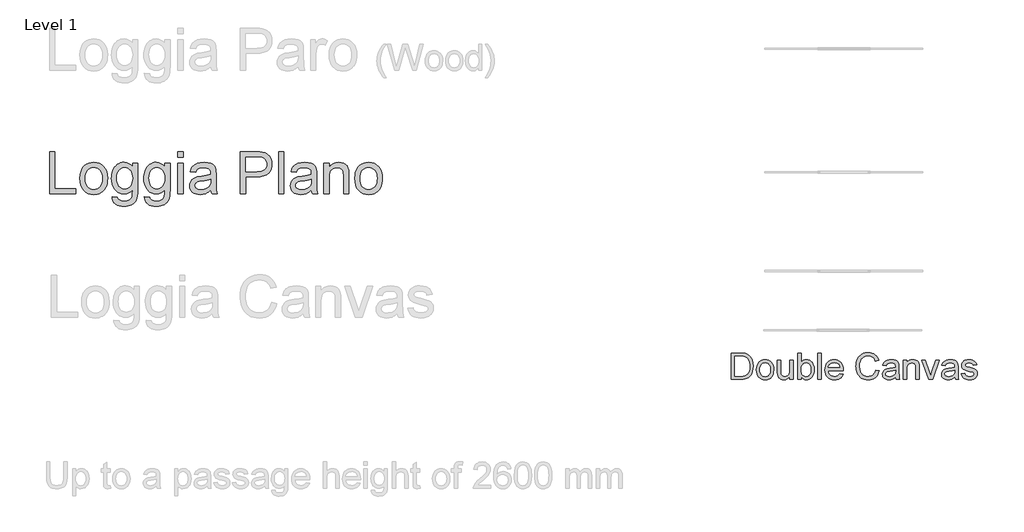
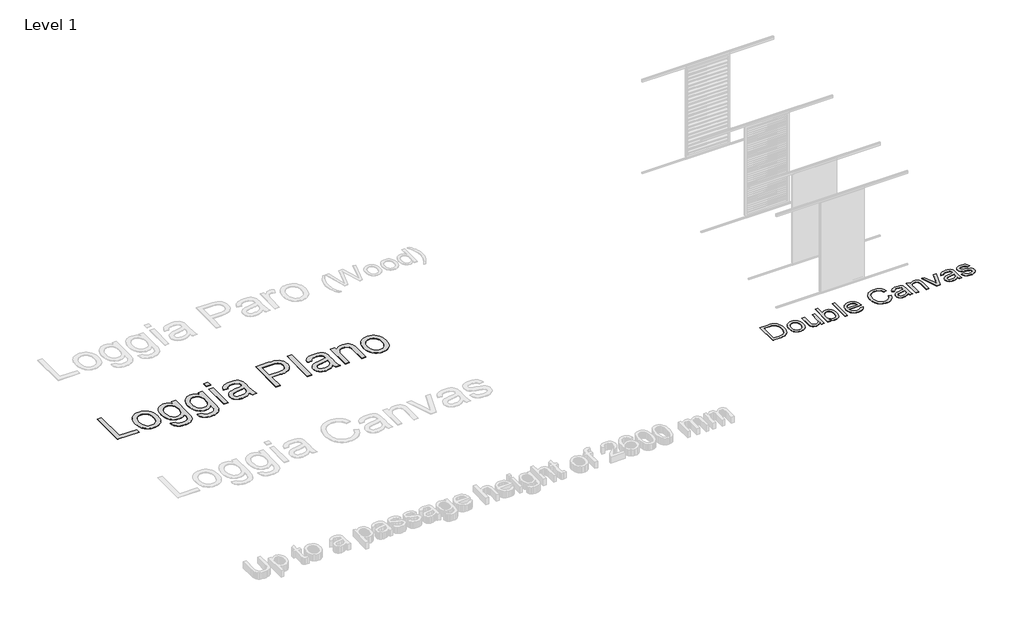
# One storey, part 14 of 47: 2 proxies.
"""IFC4 building model written with IfcOpenShell, lengths in millimetres."""

from ifc_helpers import new_model, si_unit, origin, origin_with_axes, place, context, project, spatial, polyline, outline, extrude, element, save

model = new_model("IFC4")

# Units and contexts
model_context = context("Model", 3, world=origin())
ifc_project = project(units=[si_unit("LENGTHUNIT", "METRE", prefix="MILLI")], contexts=[model_context])

# Site, building, storey
site = spatial("IfcSite", under=ifc_project)
building = spatial("IfcBuilding", under=site)
storey = spatial("IfcBuildingStorey", under=building, Name="Level 1", Elevation=0.0)

# Proxies
placement = place(None, origin())
element("IfcBuildingElementProxy", 1, Name="500mm Arial", ObjectType="500mm Arial", at=placement, inside=storey, context=model_context, shape_type="SweptSolid", body=[
    extrude(outline(polyline([(185878.979046, -25989.2078422), (185878.979046, -25486.9262915), (186052.2514658, -25486.9262915), (186104.0308566, -25488.7350446), (186141.8920453, -25494.1613041), (186181.9298691, -25508.110163), (186215.713699, -25530.0911123), (186234.3300608, -25548.0560164), (186250.4478907, -25568.3508398), (186264.0671887, -25590.9755825), (186275.1879549, -25615.9302445), (186289.9952052, -25671.9096214), (186294.9309553, -25735.3692656), (186291.5893605, -25789.2793063), (186281.5645761, -25836.7207552), (186266.2974733, -25877.1111326), (186247.2289232, -25909.8679586), (186225.2786308, -25935.7269972), (186201.3663012, -25955.4240123), (186173.9131073, -25970.0319932), (186141.3402223, -25980.623929), (186103.5863325, -25987.0618639), (186060.5901243, -25989.2078422), (185878.979046, -25989.2078422)]), holes=[polyline([(185941.7642399, -25926.4226484), (186052.8646024, -25926.4226484), (186098.819195, -25924.1540428), (186133.676014, -25917.3482258), (186159.9795767, -25906.4037365), (186180.2744001, -25891.7191135), (186202.0867367, -25864.5418311), (186218.4728139, -25829.3631153), (186228.7275245, -25786.029682), (186232.1457614, -25734.3882469), (186230.4711319, -25697.9372726), (186225.4472434, -25665.9621958), (186217.0740959, -25638.4630167), (186205.3516894, -25615.4397351), (186191.2303858, -25596.3711851), (186175.6605467, -25580.7362003), (186158.6421724, -25568.5347808), (186140.1752626, -25559.7669265), (186104.0615134, -25552.2253456), (186051.1478198, -25549.7114853), (185941.7642399, -25549.7114853), (185941.7642399, -25926.4226484)])]), origin_with_axes(), (0.0, 0.0, 1.0), 5.0),
    extrude(outline(polyline([(186357.7161491, -25804.7763353), (186361.1113933, -25757.0053254), (186371.2971261, -25715.840863), (186388.2733473, -25681.2829481), (186412.0400571, -25653.3315806), (186435.9677152, -25635.4663113), (186462.3785767, -25622.7054045), (186491.2726418, -25615.0488605), (186522.6499103, -25612.4966792), (186557.2882994, -25615.6045156), (186588.6080863, -25624.9280249), (186616.6092711, -25640.4672071), (186641.2918537, -25662.2220622), (186661.4372251, -25689.4568261), (186675.826776, -25721.435735), (186684.4605066, -25758.1587887), (186687.3384168, -25799.6259874), (186682.2493825, -25863.0549747), (186675.8880897, -25889.0902901), (186666.9822797, -25911.3394866), (186655.6430836, -25930.5574887), (186641.9816325, -25947.499221), (186625.9979262, -25962.1646835), (186607.6919648, -25974.5538761), (186566.9643623, -25991.4304626), (186522.6499103, -25997.0559915), (186487.5056834, -25993.9596513), (186455.8946566, -25984.670631), (186427.8168297, -25969.1889303), (186403.2722028, -25947.5145495), (186383.3414293, -25920.0153703), (186369.1051625, -25887.0592749), (186360.5634025, -25848.6462632), (186357.7161491, -25804.7763353)]), holes=[polyline([(186420.5013429, -25804.653708), (186422.3177603, -25835.1074394), (186427.7670123, -25861.4761478), (186436.8490991, -25883.7598333), (186449.5640206, -25901.9584957), (186465.0303928, -25916.0951278), (186482.3668318, -25926.1927221), (186501.5733376, -25932.2512788), (186522.6499103, -25934.2707976), (186543.619184, -25932.2397824), (186562.7490477, -25926.1467369), (186580.0395015, -25915.991661), (186595.4905453, -25901.7745547), (186608.2054668, -25883.3957834), (186617.2875535, -25860.7557123), (186622.7368056, -25833.8543414), (186624.5532229, -25802.6916707), (186622.7253093, -25773.2036295), (186617.2415683, -25747.5246998), (186608.102, -25725.6548816), (186595.3066043, -25707.5941749), (186579.798079, -25693.4575428), (186562.5191215, -25683.3599485), (186543.4697319, -25677.3013919), (186522.6499103, -25675.281873), (186501.5733376, -25677.2937277), (186482.3668318, -25683.3292917), (186465.0303928, -25693.388565), (186449.5640206, -25707.4715476), (186436.8490991, -25725.6165606), (186427.7670123, -25747.861925), (186422.3177603, -25774.2076408), (186420.5013429, -25804.653708)])]), origin_with_axes(), (0.0, 0.0, 1.0), 5.0),
    extrude(outline(polyline([(186993.4162368, -25989.2078422), (186993.4162368, -25925.8095117), (186970.6995236, -25956.9798466), (186944.2426767, -25979.2443715), (186914.0456963, -25992.6030865), (186880.1085823, -25997.0559915), (186849.5283914, -25993.9289945), (186821.063522, -25984.5480036), (186797.1818492, -25970.4458605), (186780.3512479, -25953.1554067), (186769.0235481, -25932.1554762), (186761.6505798, -25906.9249026), (186757.9717599, -25848.5542927), (186757.9717599, -25620.3448284), (186820.7569537, -25620.3448284), (186820.7569537, -25819.0011058), (186824.558401, -25883.012573), (186833.7094656, -25904.3650571), (186849.3904357, -25920.5978501), (186870.5589788, -25930.8525608), (186896.1727627, -25934.2707976), (186923.2580746, -25930.7759187), (186948.595947, -25920.2912818), (186969.4885787, -25903.7825773), (186983.2381682, -25882.2154953), (186990.8717196, -25852.6776368), (186993.4162368, -25812.2566026), (186993.4162368, -25620.3448284), (187056.2014306, -25620.3448284), (187056.2014306, -25989.2078422), (186993.4162368, -25989.2078422)])), origin_with_axes(), (0.0, 0.0, 1.0), 5.0),
    extrude(outline(polyline([(187205.316266, -25989.2078422), (187142.5310721, -25989.2078422), (187142.5310721, -25486.9262915), (187205.316266, -25486.9262915), (187205.316266, -25673.1972084), (187225.963643, -25646.6407269), (187249.2781644, -25627.6718115), (187275.2598303, -25616.2904623), (187303.9086407, -25612.4966792), (187336.2515994, -25615.914916), (187366.8164619, -25626.1696267), (187393.8557885, -25642.6170175), (187415.6221399, -25664.6132952), (187432.6826674, -25691.9438617), (187445.6045225, -25724.3941194), (187453.7439116, -25760.6151675), (187456.4570414, -25799.2581054), (187453.648109, -25843.8484689), (187445.2213121, -25883.0738866), (187431.1766505, -25916.9343586), (187411.5141243, -25945.4298848), (187387.912195, -25968.0163065), (187362.0493244, -25984.1494648), (187333.9255122, -25993.8293598), (187303.5407587, -25997.0559915), (187273.9492507, -25992.8943264), (187247.7146659, -25980.4093312), (187224.8370044, -25959.6010058), (187205.316266, -25930.4693503), (187205.316266, -25989.2078422)]), holes=[polyline([(187205.316266, -25802.2011614), (187209.6082226, -25854.563032), (187214.9731684, -25874.3980029), (187222.4840924, -25890.0023309), (187237.6975458, -25909.3697851), (187255.3788742, -25923.2036809), (187275.5280776, -25931.5040185), (187298.1451561, -25934.2707976), (187316.9224663, -25932.2321182), (187334.3815326, -25926.1160801), (187350.5223552, -25915.9226831), (187365.3449339, -25901.6519274), (187377.7379586, -25883.3421339), (187386.5901191, -25861.0316238), (187391.9014154, -25834.7203969), (187393.6718475, -25804.4084533), (187391.9742254, -25773.5216941), (187386.881359, -25746.9575484), (187378.3932484, -25724.7160161), (187366.5098935, -25706.7970973), (187352.2199773, -25693.0091867), (187336.5121825, -25683.1606791), (187319.3865092, -25677.2515745), (187300.8429574, -25675.281873), (187282.0656472, -25677.3205524), (187264.6065809, -25683.4365906), (187248.4657583, -25693.6299875), (187233.6431796, -25707.9007433), (187221.2501549, -25726.0265957), (187212.3979944, -25747.7852829), (187207.0866981, -25773.1768048), (187205.316266, -25802.2011614)])]), origin_with_axes(), (0.0, 0.0, 1.0), 5.0),
    extrude(outline(polyline([(187527.0903844, -25989.2078422), (187527.0903844, -25486.9262915), (187589.8755783, -25486.9262915), (187589.8755783, -25989.2078422), (187527.0903844, -25989.2078422)])), origin_with_axes(), (0.0, 0.0, 1.0), 5.0),
    extrude(outline(polyline([(187942.3065297, -25879.333753), (188003.8654502, -25887.1819022), (187994.4269777, -25911.8376601), (187981.6852316, -25933.5656905), (187965.6402116, -25952.3659933), (187946.2919179, -25968.2385685), (187923.8396199, -25980.8461911), (187898.482587, -25989.8516357), (187870.2208191, -25995.2549025), (187839.0543163, -25997.0559915), (187800.0971459, -25993.948155), (187765.3859468, -25984.6246457), (187734.9207191, -25969.0854635), (187708.7014627, -25947.3306085), (187687.6172259, -25919.965553), (187672.5570567, -25887.5957695), (187663.5209552, -25850.221258), (187660.5089214, -25807.8420186), (187663.551612, -25764.0257401), (187672.679684, -25725.4057949), (187687.8931374, -25691.9821828), (187709.191972, -25663.7549038), (187735.3422505, -25641.3294305), (187765.1100353, -25625.3112353), (187798.4953264, -25615.7003182), (187835.4981237, -25612.4966792), (187871.3091367, -25615.692654), (187903.6942486, -25625.2805785), (187932.6534594, -25641.2604527), (187958.1867691, -25663.6322765), (187979.0295834, -25691.7982418), (187993.9173079, -25725.1605402), (188002.8499426, -25763.7191718), (188005.8274875, -25807.4741366), (188005.4596055, -25824.3967084), (187723.2941152, -25824.3967084), (187726.930782, -25849.4510051), (187734.1619625, -25871.3936333), (187744.9876566, -25890.2245929), (187759.4078644, -25905.943884), (187776.6255082, -25918.3369087), (187795.8435103, -25927.1890692), (187817.0618708, -25932.5003655), (187840.2805897, -25934.2707976), (187873.6965376, -25930.9905165), (187901.8395102, -25921.1496731), (187924.7095076, -25904.1351309), (187942.3065297, -25879.333753)]), holes=[polyline([(187723.2941152, -25761.6115146), (187943.0422937, -25761.6115146), (187934.5503509, -25728.4408213), (187917.9036906, -25704.7124326), (187900.7818495, -25691.8365628), (187881.2994321, -25682.6395129), (187859.4564387, -25677.121283), (187835.2528691, -25675.281873), (187792.9311112, -25681.1526565), (187774.5178509, -25688.4911359), (187757.9363364, -25698.765007), (187744.0219664, -25711.499089), (187733.6101395, -25726.2182009), (187726.7008558, -25742.9223428), (187723.2941152, -25761.6115146)])]), origin_with_axes(), (0.0, 0.0, 1.0), 5.0),
    extrude(outline(polyline([(188625.8312767, -25810.6624472), (188688.6164705, -25826.849255), (188676.192789, -25865.8945639), (188659.6457634, -25900.0117868), (188638.9753938, -25929.2009239), (188614.1816802, -25953.461975), (188585.8241097, -25972.5343572), (188554.4621696, -25986.1574874), (188520.0958599, -25994.3313654), (188482.7251806, -25997.0559915), (188444.4386283, -25994.9943195), (188409.8998739, -25988.8093034), (188379.1089174, -25978.5009433), (188352.0657586, -25964.0692392), (188328.3986836, -25945.7287889), (188307.7359782, -25923.6941903), (188290.0776424, -25897.9654432), (188275.4236763, -25868.5425478), (188263.9158676, -25836.6977626), (188255.6960043, -25803.7033462), (188250.7640863, -25769.5592985), (188249.1201136, -25734.2656196), (188250.9786841, -25696.3967667), (188256.5543956, -25661.0264457), (188265.8472481, -25628.1546566), (188278.8572416, -25597.7813994), (188295.2931361, -25570.4086797), (188314.8636919, -25546.5385031), (188337.5689087, -25526.1708697), (188363.4087868, -25509.3057795), (188391.5057742, -25496.0811882), (188420.9823191, -25486.6350516), (188451.8384214, -25480.9673696), (188484.0740812, -25479.0781423), (188519.9847289, -25481.5230247), (188552.9139996, -25488.857672), (188582.8618932, -25501.0820841), (188609.8284099, -25518.1962611), (188633.3690255, -25539.7480146), (188653.0392159, -25565.2851565), (188668.8389812, -25594.8076866), (188680.7683213, -25628.315605), (188617.9831275, -25643.2761394), (188608.0962988, -25618.5858926), (188596.2167761, -25597.4901595), (188582.3445592, -25579.98894), (188566.4796481, -25566.0822341), (188548.5300725, -25555.4864662), (188528.4038616, -25547.9180606), (188506.1010157, -25543.3770172), (188481.6215346, -25541.8633361), (188453.4555693, -25543.5417977), (188427.6961655, -25548.5771825), (188404.343323, -25556.9694905), (188383.3970419, -25568.7187218), (188365.1217373, -25583.2960458), (188349.7818246, -25600.1726323), (188337.3773035, -25619.3484813), (188327.9081743, -25640.8235928), (188315.9060242, -25686.7781854), (188311.9053075, -25734.1429922), (188316.6417882, -25792.1457202), (188330.8512302, -25842.3002988), (188341.6424354, -25863.9555192), (188355.0701282, -25882.6906762), (188371.1343087, -25898.5057699), (188389.8349768, -25911.4008003), (188431.5129412, -25928.5532983), (188476.4711867, -25934.2707976), (188503.7672643, -25932.3240887), (188528.8790426, -25926.4839621), (188551.8065215, -25916.7504176), (188572.5497011, -25903.1234554), (188590.618072, -25885.664389), (188605.5211249, -25864.4345322), (188617.2588598, -25839.433885), (188625.8312767, -25810.6624472)])), origin_with_axes(), (0.0, 0.0, 1.0), 5.0),
    extrude(outline(polyline([(189002.5424398, -25942.1189469), (188972.5447287, -25967.8400297), (188941.6579696, -25984.670631), (188909.1770551, -25993.9596513), (188874.3968781, -25997.0559915), (188846.4416786, -25995.1935889), (188821.9277085, -25989.6063811), (188800.854968, -25980.2943681), (188783.223457, -25967.2575499), (188769.3014227, -25951.3236609), (188759.3571125, -25933.3204358), (188753.3905264, -25913.2478744), (188751.4016644, -25891.1059769), (188754.406034, -25865.0783257), (188763.4191429, -25841.4419075), (188777.3220166, -25821.2083978), (188794.9956808, -25805.389472), (188815.7656851, -25793.4333071), (188838.9575792, -25784.7880803), (188893.2814872, -25775.3457757), (188957.4768954, -25765.4129618), (189002.1745578, -25753.7633653), (189002.5424398, -25739.7838495), (188998.2198263, -25711.7635042), (188985.251986, -25693.4307181), (188972.1768467, -25685.4905984), (188956.250622, -25679.8190843), (188915.8449162, -25675.281873), (188878.4435801, -25678.3015711), (188852.3239584, -25687.3606652), (188834.5123385, -25704.1146244), (188822.0350075, -25730.2189176), (188759.2498136, -25722.3707684), (188770.1483177, -25688.0351155), (188786.4117676, -25661.0571025), (188809.5576765, -25640.425054), (188841.1035575, -25625.1272943), (188879.6851818, -25615.654333), (188923.9383201, -25612.4966792), (188966.3827053, -25615.286451), (189000.0285795, -25623.6557664), (189025.3971087, -25636.2403963), (189043.0094592, -25651.6761117), (189054.6897126, -25670.7599902), (189062.2619503, -25694.2891094), (189065.3276336, -25749.2261541), (189065.3276336, -25827.3397644), (189068.5159442, -25936.4167759), (189073.2370965, -25963.3794605), (189081.0239321, -25989.2078422), (189018.2387382, -25989.2078422), (189008.183297, -25967.3801772), (189002.5424398, -25942.1189469)]), holes=[polyline([(189002.5424398, -25816.5485592), (188960.3586376, -25827.0025392), (188901.2522638, -25835.8010502), (188847.2349241, -25845.9791188), (188833.1787662, -25852.9382199), (188822.7707714, -25862.5338086), (188816.3328365, -25874.0301209), (188814.1868582, -25886.6913929), (188818.8620253, -25905.3614042), (188832.8875263, -25920.6591638), (188855.9567931, -25930.8678892), (188887.7632573, -25934.2707976), (188921.4857735, -25930.5153356), (188951.2842151, -25919.2489495), (188975.4417994, -25902.6482745), (188992.2417439, -25882.8899456), (188999.6913543, -25862.5338086), (189002.1745578, -25834.3295223), (189002.5424398, -25816.5485592)])]), origin_with_axes(), (0.0, 0.0, 1.0), 5.0),
    extrude(outline(polyline([(189151.6572751, -25989.2078422), (189151.6572751, -25620.3448284), (189214.442469, -25620.3448284), (189214.442469, -25671.8483077), (189236.2548056, -25645.8819702), (189262.4510694, -25627.3345863), (189293.0312602, -25616.206156), (189327.9953782, -25612.4966792), (189358.943451, -25615.4857204), (189387.285693, -25624.452844), (189410.9221112, -25638.2790757), (189427.7527125, -25655.8454409), (189439.1723828, -25677.1059546), (189446.5760079, -25702.0146313), (189449.8869459, -25762.7151605), (189449.8869459, -25989.2078422), (189387.1017521, -25989.2078422), (189387.1017521, -25771.1764464), (189385.2929989, -25738.7108604), (189379.8667395, -25715.6262652), (189369.8572835, -25699.0869038), (189354.2989408, -25686.2570192), (189334.356671, -25678.0256596), (189311.1954337, -25675.281873), (189292.1307157, -25676.8223789), (189274.4225626, -25681.4438964), (189258.0709743, -25689.1464257), (189243.0759509, -25699.9299667), (189230.5488026, -25715.0207927), (189221.6008395, -25735.6451771), (189216.2320616, -25761.8031198), (189214.442469, -25793.4946208), (189214.442469, -25989.2078422), (189151.6572751, -25989.2078422)])), origin_with_axes(), (0.0, 0.0, 1.0), 5.0),
    extrude(outline(polyline([(189626.7155582, -25989.2078422), (189496.9758413, -25620.3448284), (189563.4398551, -25620.3448284), (189642.0439747, -25841.3192802), (189665.7110497, -25915.6314432), (189688.8876154, -25845.4886095), (189767.9822444, -25620.3448284), (189834.4462582, -25620.3448284), (189706.3006965, -25989.2078422), (189626.7155582, -25989.2078422)])), origin_with_axes(), (0.0, 0.0, 1.0), 5.0),
    extrude(outline(polyline([(190124.8277797, -25942.1189469), (190094.8300687, -25967.8400297), (190063.9433095, -25984.670631), (190031.462395, -25993.9596513), (189996.6822181, -25997.0559915), (189968.7270185, -25995.1935889), (189944.2130485, -25989.6063811), (189923.140308, -25980.2943681), (189905.5087969, -25967.2575499), (189891.5867627, -25951.3236609), (189881.6424525, -25933.3204358), (189875.6758664, -25913.2478744), (189873.6870043, -25891.1059769), (189876.691374, -25865.0783257), (189885.7044828, -25841.4419075), (189899.6073566, -25821.2083978), (189917.2810208, -25805.389472), (189938.0510251, -25793.4333071), (189961.2429192, -25784.7880803), (190015.5668271, -25775.3457757), (190079.7622353, -25765.4129618), (190124.4598977, -25753.7633653), (190124.8277797, -25739.7838495), (190120.5051663, -25711.7635042), (190107.5373259, -25693.4307181), (190094.4621867, -25685.4905984), (190078.535962, -25679.8190843), (190038.1302562, -25675.281873), (190000.72892, -25678.3015711), (189974.6092983, -25687.3606652), (189956.7976784, -25704.1146244), (189944.3203474, -25730.2189176), (189881.5351536, -25722.3707684), (189892.4336577, -25688.0351155), (189908.6971075, -25661.0571025), (189931.8430164, -25640.425054), (189963.3888975, -25625.1272943), (190001.9705217, -25615.654333), (190046.2236601, -25612.4966792), (190088.6680453, -25615.286451), (190122.3139194, -25623.6557664), (190147.6824487, -25636.2403963), (190165.2947992, -25651.6761117), (190176.9750525, -25670.7599902), (190184.5472903, -25694.2891094), (190187.6129736, -25749.2261541), (190187.6129736, -25827.3397644), (190190.8012842, -25936.4167759), (190195.5224365, -25963.3794605), (190203.309272, -25989.2078422), (190140.5240782, -25989.2078422), (190130.468637, -25967.3801772), (190124.8277797, -25942.1189469)]), holes=[polyline([(190124.8277797, -25816.5485592), (190082.6439776, -25827.0025392), (190023.5376037, -25835.8010502), (189969.5202641, -25845.9791188), (189955.4641062, -25852.9382199), (189945.0561114, -25862.5338086), (189938.6181765, -25874.0301209), (189936.4721982, -25886.6913929), (189941.1473652, -25905.3614042), (189955.1728663, -25920.6591638), (189978.2421331, -25930.8678892), (190010.0485972, -25934.2707976), (190043.7711134, -25930.5153356), (190073.5695551, -25919.2489495), (190097.7271394, -25902.6482745), (190114.5270838, -25882.8899456), (190121.9766942, -25862.5338086), (190124.4598977, -25834.3295223), (190124.8277797, -25816.5485592)])]), origin_with_axes(), (0.0, 0.0, 1.0), 5.0),
    extrude(outline(polyline([(190250.3981674, -25879.333753), (190313.1833612, -25871.4856038), (190323.0855183, -25898.3409894), (190342.2460389, -25918.0839898), (190370.7875503, -25930.2240957), (190408.83268, -25934.2707976), (190446.4179572, -25930.5613208), (190472.8441471, -25919.4328905), (190488.4791319, -25903.3073964), (190493.6907935, -25884.6067283), (190488.4484751, -25868.6038615), (190472.7215198, -25856.402442), (190408.096916, -25838.4988515), (190350.7992952, -25821.9288333), (190313.5512432, -25807.7807049), (190289.6235851, -25792.3449896), (190272.2871461, -25771.9122104), (190261.756524, -25747.7852829), (190258.2463166, -25721.2671224), (190261.0667453, -25696.9409255), (190269.5280311, -25674.4847954), (190282.8637535, -25654.7877802), (190300.3074914, -25638.7389282), (190317.6439304, -25628.6375017), (190340.2226879, -25620.1608874), (190366.3269811, -25614.4127312), (190394.2400275, -25612.4966792), (190435.1055858, -25615.5776909), (190470.6368552, -25624.820726), (190499.2090235, -25639.321408), (190519.1972785, -25658.1753602), (190532.4410304, -25682.7774687), (190540.7796889, -25714.5226192), (190477.9944951, -25722.3707684), (190470.0697038, -25702.6124396), (190454.3887337, -25687.7285472), (190430.7983008, -25678.3935416), (190399.1451208, -25675.281873), (190363.0926853, -25678.2555858), (190339.0577282, -25687.1767242), (190325.5380649, -25700.052594), (190321.0315105, -25714.8905012), (190322.9015773, -25724.5474035), (190328.5117777, -25733.1619736), (190338.1073664, -25740.8568387), (190351.9335981, -25747.0188621), (190406.0122514, -25760.3852412), (190498.1666912, -25789.9384282), (190522.5082165, -25804.0712282), (190540.9636299, -25823.4156897), (190552.597898, -25848.0331266), (190556.4759874, -25877.9848524), (190551.9234477, -25908.9482536), (190538.2658286, -25938.0722449), (190516.0242963, -25963.0728922), (190485.720017, -25981.6662613), (190449.1157585, -25993.2085589), (190407.9742887, -25997.0559915), (190374.1827946, -25995.2012531), (190344.6679287, -25989.6370379), (190319.429691, -25980.3633459), (190298.4680814, -25967.3801772), (190281.3462402, -25950.7488453), (190267.6273075, -25930.530664), (190257.3112832, -25906.7256332), (190250.3981674, -25879.333753)])), origin_with_axes(), (0.0, 0.0, 1.0), 5.0),
])
element("IfcBuildingElementProxy", 2, Name="800mm Arial", ObjectType="800mm Arial", at=placement, inside=storey, context=model_context, shape_type="SweptSolid", body=[
    extrude(outline(polyline([(172933.6081343, -22465.2610719), (172933.6081343, -21665.8723736), (173033.5317216, -21665.8723736), (173033.5317216, -22365.3374846), (173433.2260708, -22365.3374846), (173433.2260708, -22465.2610719), (172933.6081343, -22465.2610719)])), origin_with_axes(), (0.0, 0.0, 1.0), 5.0),
    extrude(outline(polyline([(173508.1687612, -22171.7355343), (173513.5723439, -22095.7072482), (173520.3268222, -22061.6360128), (173529.7830919, -22030.1933825), (173541.9411529, -22001.3793574), (173556.8010052, -21975.1939373), (173574.3626488, -21951.6371224), (173594.6260838, -21930.7089126), (173632.7073142, -21902.2760656), (173674.7406006, -21881.9668893), (173720.7259429, -21869.7813834), (173770.6633411, -21865.7195482), (173825.7908622, -21870.6657169), (173875.6367777, -21885.5042233), (173920.2010875, -21910.2350672), (173959.4837917, -21944.8582487), (173991.5454554, -21988.2027881), (174014.4466438, -22039.0977061), (174028.1873568, -22097.5430026), (174032.7675945, -22163.5386775), (174030.7427757, -22217.0256074), (174024.6683194, -22264.4868719), (174014.5442254, -22305.9224708), (174000.3704939, -22341.3324041), (173982.3239916, -22371.9181457), (173960.581585, -22398.8811693), (173935.1432743, -22422.221475), (173906.0090595, -22441.9390628), (173874.3133268, -22457.607013), (173841.1904629, -22468.7984059), (173806.6404677, -22475.5132417), (173770.6633411, -22477.7515203), (173714.7307716, -22472.8236481), (173664.4213434, -22458.0400314), (173619.7350565, -22433.4006703), (173580.671911, -22398.9055647), (173548.951783, -22355.1402045), (173526.2945487, -22302.6900793), (173512.7002081, -22241.5551892), (173508.1687612, -22171.7355343)]), holes=[polyline([(173608.0923485, -22171.540371), (173610.9832043, -22220.007946), (173619.6557715, -22261.9741449), (173634.1100501, -22297.4389679), (173654.3460403, -22326.402415), (173678.961006, -22348.9010791), (173706.5522114, -22364.9715535), (173737.1196564, -22374.6138382), (173770.6633411, -22377.827933), (173804.036258, -22374.5955416), (173834.481726, -22364.8983673), (173861.9997451, -22348.7364101), (173886.5903154, -22326.1096701), (173906.8263056, -22296.859577), (173921.2805843, -22260.8275608), (173929.9531515, -22218.0136214), (173932.8440072, -22168.4177589), (173929.9348549, -22121.4870946), (173921.2073981, -22080.6186889), (173906.6616366, -22045.8125419), (173886.2975706, -22017.0686535), (173861.6155175, -21994.5699894), (173834.1157949, -21978.499515), (173803.7984028, -21968.8572303), (173770.6633411, -21965.6431355), (173737.1196564, -21968.8450326), (173706.5522114, -21978.4507242), (173678.961006, -21994.46021), (173654.3460403, -22016.8734903), (173634.1100501, -22045.7515534), (173619.6557715, -22081.1553879), (173610.9832043, -22123.0849937), (173608.0923485, -22171.540371)])]), origin_with_axes(), (0.0, 0.0, 1.0), 5.0),
    extrude(outline(polyline([(174120.2007334, -22515.2228656), (174220.1243207, -22527.713314), (174224.3447261, -22544.5461449), (174231.1510447, -22558.939435), (174240.5432764, -22570.8931845), (174252.5214213, -22580.4073932), (174271.9035722, -22590.1411606), (174294.5303122, -22597.0938516), (174349.5175597, -22602.6560045), (174380.7192853, -22601.0825007), (174408.1641183, -22596.3619894), (174431.8520585, -22588.4944707), (174451.7831061, -22577.4799444), (174468.3719829, -22563.6233532), (174482.0334108, -22547.2296396), (174492.7673899, -22528.2988038), (174500.5739202, -22506.8308455), (174505.9897005, -22463.8461383), (174507.4046342, -22390.3183815), (174474.1536943, -22423.1058085), (174437.0482802, -22446.5253993), (174396.0883918, -22460.5771538), (174351.274029, -22465.2610719), (174296.4880436, -22459.8086984), (174248.252225, -22443.451578), (174226.5906283, -22431.1837377), (174206.5665732, -22416.1897106), (174171.4310882, -22378.0230963), (174143.5532368, -22332.2329173), (174123.6404858, -22282.1003558), (174111.6928352, -22227.6254118), (174107.710285, -22168.8080854), (174109.4972486, -22127.6591326), (174114.8581393, -22088.1324743), (174123.7929571, -22050.2281106), (174136.3017021, -22013.9460414), (174152.1953097, -21980.4938395), (174171.2847158, -21951.0790775), (174193.5699201, -21925.7017553), (174219.0509228, -21904.3618729), (174247.3191007, -21887.4558559), (174277.9658308, -21875.3801294), (174310.9911131, -21868.1346935), (174346.3949476, -21865.7195482), (174393.1243498, -21871.1841193), (174435.535765, -21887.5778329), (174473.6291931, -21914.9006888), (174507.4046342, -21953.152687), (174507.4046342, -21878.2099966), (174607.3282214, -21878.2099966), (174607.3282214, -22385.0489735), (174605.620543, -22448.5563169), (174600.4975075, -22502.0737412), (174591.959115, -22545.6012462), (174580.0053655, -22579.1388321), (174564.3496131, -22606.1872396), (174544.7052115, -22630.2472098), (174521.072161, -22651.3187427), (174493.4504613, -22669.4018382), (174462.1206598, -22683.9171053), (174427.3633036, -22694.2851533), (174389.1783927, -22700.5059821), (174347.5659271, -22702.5795917), (174298.610444, -22699.6582418), (174254.5950309, -22690.8941918), (174215.5196876, -22676.2874418), (174181.3844143, -22655.8379918), (174153.8115055, -22629.5214465), (174134.4232557, -22597.3134103), (174123.219665, -22559.2138833), (174120.2007334, -22515.2228656)]), holes=[polyline([(174207.6338723, -22161.9773714), (174210.2990705, -22211.3841696), (174218.2946652, -22253.6309157), (174231.6206563, -22288.7176099), (174250.2770438, -22316.6442522), (174272.9586735, -22337.9475414), (174298.3603911, -22353.1641765), (174326.4821966, -22362.2941576), (174357.32409, -22365.3374846), (174387.8610407, -22362.3124542), (174415.8486715, -22353.2373627), (174441.2869822, -22338.1122104), (174464.1759729, -22316.936997), (174483.0885122, -22289.2848031), (174496.5974688, -22254.7287091), (174504.7028428, -22213.2687148), (174507.4046342, -22164.9048203), (174504.6235578, -22118.5596457), (174496.2803285, -22078.2767298), (174482.3749465, -22044.0560726), (174462.9074117, -22015.897674), (174439.524414, -21993.9113134), (174413.8726435, -21978.2067701), (174385.9521001, -21968.7840441), (174355.7627839, -21965.6431355), (174326.0796724, -21968.7352533), (174298.7019268, -21978.0116068), (174273.6295472, -21993.4721961), (174250.8625336, -22015.117021), (174231.9499943, -22042.8484999), (174218.4410376, -22076.5690513), (174210.3356636, -22116.2786752), (174207.6338723, -22161.9773714)])]), origin_with_axes(), (0.0, 0.0, 1.0), 5.0),
    extrude(outline(polyline([(174732.2327056, -22515.2228656), (174832.1562929, -22527.713314), (174836.3766983, -22544.5461449), (174843.1830168, -22558.939435), (174852.5752486, -22570.8931845), (174864.5533934, -22580.4073932), (174883.9355443, -22590.1411606), (174906.5622844, -22597.0938516), (174961.5495319, -22602.6560045), (174992.7512575, -22601.0825007), (175020.1960904, -22596.3619894), (175043.8840307, -22588.4944707), (175063.8150782, -22577.4799444), (175080.403955, -22563.6233532), (175094.065383, -22547.2296396), (175104.7993621, -22528.2988038), (175112.6058923, -22506.8308455), (175118.0216727, -22463.8461383), (175119.4366063, -22390.3183815), (175086.1856665, -22423.1058085), (175049.0802524, -22446.5253993), (175008.1203639, -22460.5771538), (174963.3060012, -22465.2610719), (174908.5200158, -22459.8086984), (174860.2841972, -22443.451578), (174838.6226004, -22431.1837377), (174818.5985454, -22416.1897106), (174783.4630604, -22378.0230963), (174755.585209, -22332.2329173), (174735.672458, -22282.1003558), (174723.7248074, -22227.6254118), (174719.7422572, -22168.8080854), (174721.5292207, -22127.6591326), (174726.8901114, -22088.1324743), (174735.8249293, -22050.2281106), (174748.3336742, -22013.9460414), (174764.2272819, -21980.4938395), (174783.3166879, -21951.0790775), (174805.6018923, -21925.7017553), (174831.0828949, -21904.3618729), (174859.3510729, -21887.4558559), (174889.997803, -21875.3801294), (174923.0230853, -21868.1346935), (174958.4269198, -21865.7195482), (175005.156322, -21871.1841193), (175047.5677371, -21887.5778329), (175085.6611653, -21914.9006888), (175119.4366063, -21953.152687), (175119.4366063, -21878.2099966), (175219.3601936, -21878.2099966), (175219.3601936, -22385.0489735), (175217.6525151, -22448.5563169), (175212.5294796, -22502.0737412), (175203.9910872, -22545.6012462), (175192.0373377, -22579.1388321), (175176.3815852, -22606.1872396), (175156.7371837, -22630.2472098), (175133.1041331, -22651.3187427), (175105.4824335, -22669.4018382), (175074.152632, -22683.9171053), (175039.3952758, -22694.2851533), (175001.2103649, -22700.5059821), (174959.5978993, -22702.5795917), (174910.6424162, -22699.6582418), (174866.627003, -22690.8941918), (174827.5516598, -22676.2874418), (174793.4163865, -22655.8379918), (174765.8434776, -22629.5214465), (174746.4552279, -22597.3134103), (174735.2516372, -22559.2138833), (174732.2327056, -22515.2228656)]), holes=[polyline([(174819.6658444, -22161.9773714), (174822.3310427, -22211.3841696), (174830.3266373, -22253.6309157), (174843.6526284, -22288.7176099), (174862.309016, -22316.6442522), (174884.9906457, -22337.9475414), (174910.3923633, -22353.1641765), (174938.5141688, -22362.2941576), (174969.3560621, -22365.3374846), (174999.8930129, -22362.3124542), (175027.8806437, -22353.2373627), (175053.3189544, -22338.1122104), (175076.207945, -22316.936997), (175095.1204843, -22289.2848031), (175108.629441, -22254.7287091), (175116.734815, -22213.2687148), (175119.4366063, -22164.9048203), (175116.6555299, -22118.5596457), (175108.3123007, -22078.2767298), (175094.4069187, -22044.0560726), (175074.9393839, -22015.897674), (175051.5563862, -21993.9113134), (175025.9046157, -21978.2067701), (174997.9840723, -21968.7840441), (174967.7947561, -21965.6431355), (174938.1116445, -21968.7352533), (174910.733899, -21978.0116068), (174885.6615194, -21993.4721961), (174862.8945057, -22015.117021), (174843.9819664, -22042.8484999), (174830.4730098, -22076.5690513), (174822.3676358, -22116.2786752), (174819.6658444, -22161.9773714)])]), origin_with_axes(), (0.0, 0.0, 1.0), 5.0),
    extrude(outline(polyline([(175369.2455746, -22465.2610719), (175369.2455746, -21878.2099966), (175469.1691618, -21878.2099966), (175469.1691618, -22465.2610719), (175369.2455746, -22465.2610719)])), origin_with_axes(), (0.0, 0.0, 1.0), 5.0),
    extrude(outline(polyline([(175369.2455746, -21765.7959609), (175369.2455746, -21665.8723736), (175469.1691618, -21665.8723736), (175469.1691618, -21765.7959609), (175369.2455746, -21765.7959609)])), origin_with_axes(), (0.0, 0.0, 1.0), 5.0),
    extrude(outline(polyline([(175993.7679951, -22390.3183815), (175946.0261835, -22431.2538745), (175921.6246776, -22446.41562), (175896.8694383, -22458.0400314), (175845.1755708, -22472.8236481), (175789.8223922, -22477.7515203), (175745.3312686, -22474.7874784), (175706.3169138, -22465.8953525), (175672.779328, -22451.0751427), (175644.718511, -22430.326849), (175622.5613826, -22404.9678234), (175606.7348622, -22376.3154178), (175597.23895, -22344.3696323), (175594.073646, -22309.1304668), (175598.8551457, -22267.7070656), (175613.1996451, -22230.0893479), (175635.3262793, -22197.8874106), (175663.4541836, -22172.7113505), (175696.5099602, -22153.682933), (175733.4202111, -22139.9239235), (175819.8775337, -22124.8963527), (175922.0454984, -22109.0881289), (175993.1825054, -22090.5476196), (175993.7679951, -22068.2990083), (175992.0481189, -22044.0743691), (175986.8884903, -22023.7042042), (175978.2891094, -22007.1885137), (175966.249976, -21994.5272974), (175945.4406938, -21981.8904766), (175920.0938658, -21972.8641759), (175890.2094922, -21967.4483956), (175855.7875728, -21965.6431355), (175796.2627796, -21970.4490307), (175773.2335154, -21976.4563996), (175754.693006, -21984.8667162), (175739.4580743, -21996.3386564), (175726.345543, -22011.5308961), (175715.3554121, -22030.4434354), (175706.4876817, -22053.0762743), (175606.5640944, -22040.5858259), (175623.9092288, -21985.9401141), (175635.7836932, -21963.0084315), (175649.7927557, -21943.0041977), (175666.5402026, -21925.5248886), (175686.6298203, -21910.1679798), (175710.0616088, -21896.9334715), (175736.835568, -21885.8213636), (175798.2388076, -21870.745002), (175868.6683478, -21865.7195482), (175936.2192299, -21870.1595123), (175989.7671484, -21883.4794045), (176030.1415471, -21903.5080337), (176058.1718698, -21928.0742086), (176076.7611699, -21958.4464904), (176088.812501, -21995.8934402), (176092.4718121, -22030.4373366), (176093.6915824, -22083.3265791), (176093.6915824, -22207.6455734), (176094.9601436, -22315.9367853), (176098.7658271, -22381.24329), (176106.2796125, -22424.154811), (176118.6724793, -22465.2610719), (176018.748892, -22465.2610719), (176002.7455049, -22430.5220123), (175993.7679951, -22390.3183815)]), holes=[polyline([(175993.7679951, -22190.4712069), (175926.6318349, -22207.1088745), (175832.5631453, -22221.1118381), (175780.7229053, -22228.7719959), (175746.5937309, -22237.3103884), (175724.2231426, -22248.3859032), (175707.6586612, -22263.657428), (175697.4125902, -22281.9539833), (175693.9972333, -22302.1045895), (175695.857383, -22317.6322661), (175701.4378324, -22331.8181953), (175710.7385813, -22344.6623772), (175723.7596299, -22356.1648116), (175740.3790009, -22365.6424272), (175760.4747175, -22372.4121527), (175811.0951871, -22377.827933), (175864.7650826, -22371.8510583), (175889.2580713, -22364.3799649), (175912.1897539, -22353.9204341), (175950.6369155, -22327.5002083), (175977.3742816, -22296.0545286), (175989.2304494, -22263.657428), (175993.1825054, -22218.7698791), (175993.7679951, -22190.4712069)])]), origin_with_axes(), (0.0, 0.0, 1.0), 5.0),
    extrude(outline(polyline([(176555.8381737, -22465.2610719), (176555.8381737, -21665.8723736), (176852.0959969, -21665.8723736), (176921.0862081, -21667.7752153), (176971.5359099, -21673.4837406), (177024.7910835, -21687.7062629), (177068.6296299, -21710.8575042), (177087.2372267, -21726.0436451), (177103.9297839, -21743.986467), (177131.5697801, -21788.1421537), (177141.9866189, -21813.5804644), (177149.4272181, -21840.2263478), (177155.3796974, -21897.1408325), (177151.3605541, -21946.2121937), (177139.3031242, -21991.3558945), (177119.2074076, -22032.5719347), (177091.0734044, -22069.8603144), (177073.3791107, -22086.4186969), (177052.4493762, -22100.7692951), (177028.2842008, -22112.912109), (177000.8835845, -22122.8471385), (176936.3760294, -22136.0938445), (176858.9267109, -22140.5094132), (176655.761761, -22140.5094132), (176655.761761, -22465.2610719), (176555.8381737, -22465.2610719)]), holes=[polyline([(176655.761761, -22040.5858259), (176864.7816086, -22040.5858259), (176912.8405605, -22038.2926577), (176953.385727, -22031.4131529), (176986.4171082, -22019.9473116), (177011.9347039, -22003.8951337), (177030.9753191, -21983.683539), (177044.5757586, -21959.739447), (177052.7360222, -21932.0628577), (177055.4561101, -21900.6537711), (177053.8521121, -21877.3317619), (177049.0401181, -21855.7662221), (177041.020128, -21835.9571516), (177029.7921419, -21817.9045503), (177015.9538473, -21802.1939082), (177000.1029315, -21789.4107149), (176982.2393947, -21779.5549705), (176962.3632368, -21772.6266749), (176923.8184937, -21767.5036394), (176862.4396495, -21765.7959609), (176655.761761, -21765.7959609), (176655.761761, -22040.5858259)])]), origin_with_axes(), (0.0, 0.0, 1.0), 5.0),
    extrude(outline(polyline([(177280.2841815, -22465.2610719), (177280.2841815, -21665.8723736), (177380.2077688, -21665.8723736), (177380.2077688, -22465.2610719), (177280.2841815, -22465.2610719)])), origin_with_axes(), (0.0, 0.0, 1.0), 5.0),
    extrude(outline(polyline([(177904.8066021, -22390.3183815), (177857.0647905, -22431.2538745), (177832.6632846, -22446.41562), (177807.9080453, -22458.0400314), (177756.2141777, -22472.8236481), (177700.8609991, -22477.7515203), (177656.3698755, -22474.7874784), (177617.3555208, -22465.8953525), (177583.8179349, -22451.0751427), (177555.757118, -22430.326849), (177533.5999895, -22404.9678234), (177517.7734692, -22376.3154178), (177508.277557, -22344.3696323), (177505.1122529, -22309.1304668), (177509.8937527, -22267.7070656), (177524.2382521, -22230.0893479), (177546.3648863, -22197.8874106), (177574.4927906, -22172.7113505), (177607.5485672, -22153.682933), (177644.458818, -22139.9239235), (177730.9161406, -22124.8963527), (177833.0841054, -22109.0881289), (177904.2211123, -22090.5476196), (177904.8066021, -22068.2990083), (177903.0867259, -22044.0743691), (177897.9270973, -22023.7042042), (177889.3277163, -22007.1885137), (177877.288583, -21994.5272974), (177856.4793007, -21981.8904766), (177831.1324728, -21972.8641759), (177801.2480992, -21967.4483956), (177766.8261798, -21965.6431355), (177707.3013866, -21970.4490307), (177684.2721223, -21976.4563996), (177665.731613, -21984.8667162), (177650.4966813, -21996.3386564), (177637.38415, -22011.5308961), (177626.3940191, -22030.4434354), (177617.5262886, -22053.0762743), (177517.6027014, -22040.5858259), (177534.9478358, -21985.9401141), (177546.8223001, -21963.0084315), (177560.8313627, -21943.0041977), (177577.5788096, -21925.5248886), (177597.6684273, -21910.1679798), (177621.1002158, -21896.9334715), (177647.874175, -21885.8213636), (177709.2774146, -21870.745002), (177779.7069547, -21865.7195482), (177847.2578369, -21870.1595123), (177900.8057554, -21883.4794045), (177941.180154, -21903.5080337), (177969.2104767, -21928.0742086), (177987.7997769, -21958.4464904), (177999.851108, -21995.8934402), (178003.5104191, -22030.4373366), (178004.7301894, -22083.3265791), (178004.7301894, -22207.6455734), (178005.9987506, -22315.9367853), (178009.8044341, -22381.24329), (178017.3182194, -22424.154811), (178029.7110862, -22465.2610719), (177929.7874989, -22465.2610719), (177913.7841119, -22430.5220123), (177904.8066021, -22390.3183815)]), holes=[polyline([(177904.8066021, -22190.4712069), (177837.6704419, -22207.1088745), (177743.6017523, -22221.1118381), (177691.7615123, -22228.7719959), (177657.6323378, -22237.3103884), (177635.2617496, -22248.3859032), (177618.6972682, -22263.657428), (177608.4511972, -22281.9539833), (177605.0358402, -22302.1045895), (177606.89599, -22317.6322661), (177612.4764394, -22331.8181953), (177621.7771883, -22344.6623772), (177634.7982368, -22356.1648116), (177651.4176079, -22365.6424272), (177671.5133245, -22372.4121527), (177722.1337941, -22377.827933), (177775.8036896, -22371.8510583), (177800.2966783, -22364.3799649), (177823.2283609, -22353.9204341), (177861.6755224, -22327.5002083), (177888.4128886, -22296.0545286), (177900.2690564, -22263.657428), (177904.2211123, -22218.7698791), (177904.8066021, -22190.4712069)])]), origin_with_axes(), (0.0, 0.0, 1.0), 5.0),
    extrude(outline(polyline([(178142.1251219, -22465.2610719), (178142.1251219, -21878.2099966), (178242.0487092, -21878.2099966), (178242.0487092, -21960.1785643), (178258.5339055, -21938.0397324), (178276.7633735, -21918.8527447), (178296.737113, -21902.6176013), (178318.4551241, -21889.3343022), (178341.9174069, -21879.0028473), (178367.1239612, -21871.6232367), (178422.7698847, -21865.7195482), (178472.0242115, -21870.4766525), (178517.1313192, -21884.7479657), (178554.7490368, -21906.7526228), (178581.5351938, -21934.7097593), (178599.709772, -21968.5461889), (178611.4927536, -22008.1887254), (178615.4448096, -22046.0991879), (178616.7621616, -22104.7945373), (178616.7621616, -22465.2610719), (178516.8385743, -22465.2610719), (178516.8385743, -22118.260802), (178513.9599162, -22066.5913299), (178505.3239421, -22029.8518468), (178489.3937413, -22003.5292026), (178464.6324032, -21983.1102469), (178432.8939786, -21970.0099133), (178396.0325185, -21965.6431355), (178365.690731, -21968.0948739), (178337.507937, -21975.4500891), (178311.4841366, -21987.7087811), (178287.6193296, -22004.87095), (178267.6821832, -22028.8882282), (178253.4413643, -22061.7122484), (178244.896873, -22103.3430106), (178242.0487092, -22153.7805147), (178242.0487092, -22465.2610719), (178142.1251219, -22465.2610719)])), origin_with_axes(), (0.0, 0.0, 1.0), 5.0),
    extrude(outline(polyline([(178729.1761973, -22171.7355343), (178734.5797799, -22095.7072482), (178741.3342583, -22061.6360128), (178750.7905279, -22030.1933825), (178762.9485889, -22001.3793574), (178777.8084412, -21975.1939373), (178795.3700849, -21951.6371224), (178815.6335199, -21930.7089126), (178853.7147503, -21902.2760656), (178895.7480366, -21881.9668893), (178941.7333789, -21869.7813834), (178991.6707772, -21865.7195482), (179046.7982983, -21870.6657169), (179096.6442137, -21885.5042233), (179141.2085236, -21910.2350672), (179180.4912278, -21944.8582487), (179212.5528915, -21988.2027881), (179235.4540799, -22039.0977061), (179249.1947929, -22097.5430026), (179253.7750306, -22163.5386775), (179251.7502118, -22217.0256074), (179245.6757554, -22264.4868719), (179235.5516615, -22305.9224708), (179221.37793, -22341.3324041), (179203.3314276, -22371.9181457), (179181.5890211, -22398.8811693), (179156.1507104, -22422.221475), (179127.0164955, -22441.9390628), (179095.3207629, -22457.607013), (179062.197899, -22468.7984059), (179027.6479037, -22475.5132417), (178991.6707772, -22477.7515203), (178935.7382077, -22472.8236481), (178885.4287795, -22458.0400314), (178840.7424926, -22433.4006703), (178801.679347, -22398.9055647), (178769.959219, -22355.1402045), (178747.3019847, -22302.6900793), (178733.7076441, -22241.5551892), (178729.1761973, -22171.7355343)]), holes=[polyline([(178829.0997846, -22171.540371), (178831.9906403, -22220.007946), (178840.6632075, -22261.9741449), (178855.1174862, -22297.4389679), (178875.3534763, -22326.402415), (178899.9684421, -22348.9010791), (178927.5596474, -22364.9715535), (178958.1270925, -22374.6138382), (178991.6707772, -22377.827933), (179025.043694, -22374.5955416), (179055.489162, -22364.8983673), (179083.0071812, -22348.7364101), (179107.5977515, -22326.1096701), (179127.8337416, -22296.859577), (179142.2880203, -22260.8275608), (179150.9605875, -22218.0136214), (179153.8514433, -22168.4177589), (179150.942291, -22121.4870946), (179142.2148341, -22080.6186889), (179127.6690726, -22045.8125419), (179107.3050066, -22017.0686535), (179082.6229535, -21994.5699894), (179055.1232309, -21978.499515), (179024.8058388, -21968.8572303), (178991.6707772, -21965.6431355), (178958.1270925, -21968.8450326), (178927.5596474, -21978.4507242), (178899.9684421, -21994.46021), (178875.3534763, -22016.8734903), (178855.1174862, -22045.7515534), (178840.6632075, -22081.1553879), (178831.9906403, -22123.0849937), (178829.0997846, -22171.540371)])]), origin_with_axes(), (0.0, 0.0, 1.0), 5.0),
])

save(model, "model.ifc")
